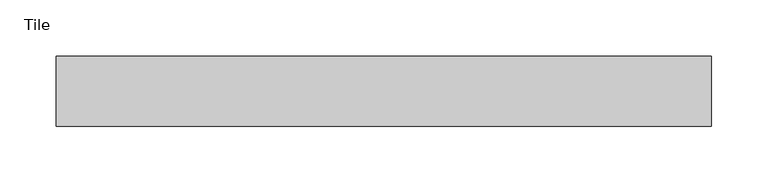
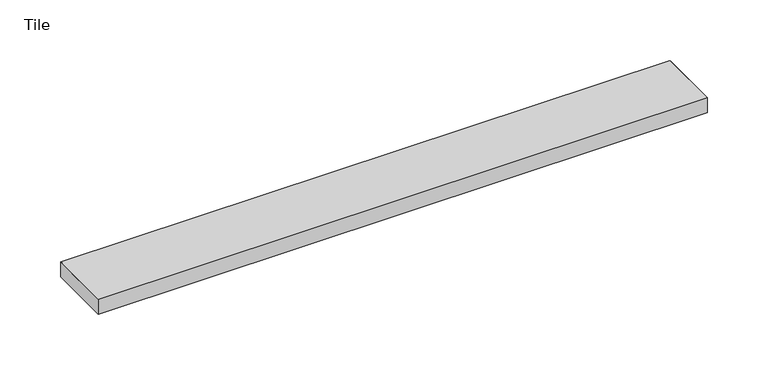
"""IFC4 building model written with IfcOpenShell, lengths in millimetres: sanitary terminal geometry, ZZZ_do not use_PF_ST_UN_grating for ShowerDrain C INT_ACO : Tile."""

from ifc_helpers import new_model, si_unit, point, frame, frame_2d, origin, place, context, project, spatial, polyline, circle_curve, trimmed, segment, composite_curve, outline, extrude, source, transform, mapped, element, save


def tile_67cb4d68(model_context):
    return source(origin(), model_context, "Body", "SweptSolid", [
        extrude(outline(polyline([(290.5, 31.0), (290.5, -31.0), (-290.5, -31.0), (-290.5, 31.0), (290.5, 31.0)])), frame((0.0, 0.0, -15.0), z_axis=(0.0, 0.0, 1.0), x_axis=(1.0, 0.0, 0.0)), (0.0, 0.0, 1.0), 15.0),
        extrude(outline(composite_curve([segment(polyline([(31.0, -15.0), (-31.0, -15.0), (-31.0, -1.977849)]), True, "CONTINUOUS"), segment(trimmed(circle_curve(frame_2d((-29.022151, -1.977849)), 1.977849), [point((-31.0, -1.977849))], [point((-29.022151, 0.0))], False, "CARTESIAN"), True, "CONTINUOUS"), segment(polyline([(-29.022151, 0.0), (29.022151, 0.0)]), True, "CONTINUOUS"), segment(trimmed(circle_curve(frame_2d((29.022151, -1.977849)), 1.977849), [point((29.022151, 0.0))], [point((31.0, -1.977849))], False, "CARTESIAN"), True, "CONTINUOUS"), segment(polyline([(31.0, -1.977849), (31.0, -15.0)]), True, "CONTINUOUS")], self_intersect=False)), frame((-290.5, 0.0, 0.0), z_axis=(1.0, 0.0, 0.0), x_axis=(0.0, 1.0, 0.0)), (0.0, 0.0, 1.0), 581.0),
    ])


if __name__ == "__main__":
    model = new_model("IFC4")
    model_context = context("Model", 3, world=origin())
    ifc_project = project(units=[si_unit("LENGTHUNIT", "METRE", prefix="MILLI")], contexts=[model_context])
    site = spatial("IfcSite", under=ifc_project)
    building = spatial("IfcBuilding", under=site)
    placement = place(None, origin())
    tile_shape = tile_67cb4d68(model_context)
    element("IfcSanitaryTerminal", 1, ObjectType="ZZZ_do not use_PF_ST_UN_grating for ShowerDrain C INT_ACO : Tile", at=placement, inside=building, context=model_context, shape_type="MappedRepresentation", body=[
        mapped(tile_shape, transform((0.0, 0.0, 0.0), x_axis=(1.0, 0.0, 0.0), y_axis=(0.0, 1.0, 0.0), z_axis=(0.0, 0.0, 1.0))),
    ])
    save(model, "model.ifc")
